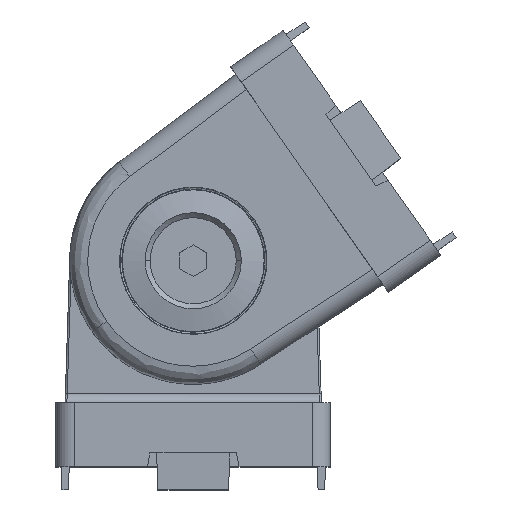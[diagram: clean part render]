
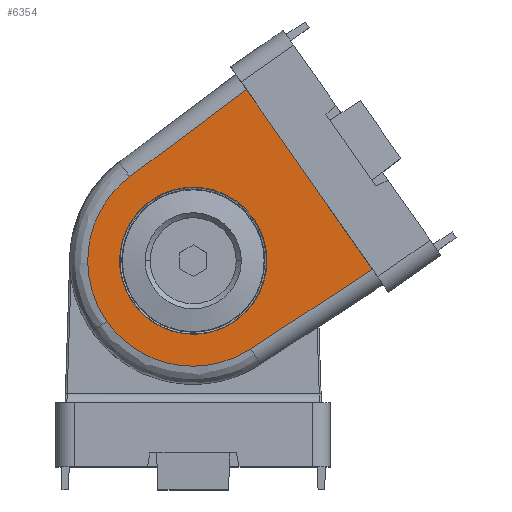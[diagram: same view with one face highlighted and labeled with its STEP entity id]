
A CAD part, top view. The second image highlights one B-rep face of the part: STEP entity #6354.
In plain terms, the highlighted planar face has unit normal (-0.014, -0.01, 1).
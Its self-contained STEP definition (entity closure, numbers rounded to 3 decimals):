
#420 = LINE ( 'NONE', #5363, #3326 ) ;
#425 = CARTESIAN_POINT ( 'NONE',  ( -6.584, -4.61, 13.589 ) ) ;
#689 = EDGE_CURVE ( 'NONE', #5242, #4052, #6558, .T. ) ;
#764 = B_SPLINE_CURVE_WITH_KNOTS ( 'NONE', 3,
 ( #14335, #3924, #13673, #10715, #8210, #966, #12652, #11817, #10641, #6235 ),
 .UNSPECIFIED., .F., .F.,
 ( 4, 2, 2, 2, 4 ),
 ( 0., 0.25, 0.5, 0.75, 1. ),
 .UNSPECIFIED. ) ;
#883 = CARTESIAN_POINT ( 'NONE',  ( 6.265, -9.645, 13.722 ) ) ;
#966 = CARTESIAN_POINT ( 'NONE',  ( -3.654, -11.033, 13.567 ) ) ;
#1043 = VECTOR ( 'NONE', #3093, 1000. ) ;
#1196 = PLANE ( 'NONE',  #2723 ) ;
#1363 = LINE ( 'NONE', #2882, #1043 ) ;
#2179 = ORIENTED_EDGE ( 'NONE', *, *, #3375, .F. ) ;
#2723 = AXIS2_PLACEMENT_3D ( 'NONE', #6613, #8942, #14154 ) ;
#2882 = CARTESIAN_POINT ( 'NONE',  ( 19.58, -0.939, 14. ) ) ;
#2958 = EDGE_CURVE ( 'NONE', #6661, #12600, #6961, .T. ) ;
#3049 = DIRECTION ( 'NONE',  ( 0.8, 0.599, 0.017 ) ) ;
#3093 = DIRECTION ( 'NONE',  ( -0.837, -0.547, -0.017 ) ) ;
#3291 =( BOUNDED_CURVE ( )  B_SPLINE_CURVE ( 3, ( #9708, #14181, #7196, #7797 ),
 .UNSPECIFIED., .F., .F. ) 
 B_SPLINE_CURVE_WITH_KNOTS ( ( 4, 4 ),
 ( 3.142, 6.283 ),
 .UNSPECIFIED. ) 
 CURVE ( )  GEOMETRIC_REPRESENTATION_ITEM ( )  RATIONAL_B_SPLINE_CURVE ( ( 1., 0.333, 0.333, 1. ) ) 
 REPRESENTATION_ITEM ( '' )  );
#3326 = VECTOR ( 'NONE', #12112, 1000. ) ;
#3375 = EDGE_CURVE ( 'NONE', #4781, #10605, #764, .T. ) ;
#3492 = CARTESIAN_POINT ( 'NONE',  ( -11.567, -1.161, 13.552 ) ) ;
#3671 = ORIENTED_EDGE ( 'NONE', *, *, #6763, .F. ) ;
#3924 = CARTESIAN_POINT ( 'NONE',  ( 5.03, -10.453, 13.697 ) ) ;
#4013 = FACE_OUTER_BOUND ( 'NONE', #10509, .T. ) ;
#4052 = VERTEX_POINT ( 'NONE', #5556 ) ;
#4164 = CARTESIAN_POINT ( 'NONE',  ( -6.921, 9.186, 13.722 ) ) ;
#4416 = CARTESIAN_POINT ( 'NONE',  ( 6.592, 4.616, 13.87 ) ) ;
#4781 = VERTEX_POINT ( 'NONE', #883 ) ;
#4888 = CARTESIAN_POINT ( 'NONE',  ( -11.151, 3.253, 13.603 ) ) ;
#5128 = ORIENTED_EDGE ( 'NONE', *, *, #6697, .F. ) ;
#5242 = VERTEX_POINT ( 'NONE', #4164 ) ;
#5363 = CARTESIAN_POINT ( 'NONE',  ( 4.093, 21.178, 14. ) ) ;
#5393 = ORIENTED_EDGE ( 'NONE', *, *, #10530, .F. ) ;
#5412 = ORIENTED_EDGE ( 'NONE', *, *, #2958, .F. ) ;
#5556 = CARTESIAN_POINT ( 'NONE',  ( 5.814, 18.72, 14. ) ) ;
#5781 = CARTESIAN_POINT ( 'NONE',  ( -9.449, -6.616, 13.528 ) ) ;
#5836 = ORIENTED_EDGE ( 'NONE', *, *, #12300, .T. ) ;
#6044 = CARTESIAN_POINT ( 'NONE',  ( -2.634, 17.793, 13.87 ) ) ;
#6235 = CARTESIAN_POINT ( 'NONE',  ( -9.449, -6.616, 13.528 ) ) ;
#6252 = CARTESIAN_POINT ( 'NONE',  ( -9.11, 7.188, 13.671 ) ) ;
#6354 = ADVANCED_FACE ( 'NONE', ( #8505, #4013 ), #1196, .F. ) ;
#6558 = LINE ( 'NONE', #6680, #11557 ) ;
#6613 = CARTESIAN_POINT ( 'NONE',  ( 4.093, 21.178, 14. ) ) ;
#6661 = VERTEX_POINT ( 'NONE', #4416 ) ;
#6680 = CARTESIAN_POINT ( 'NONE',  ( -6.889, 9.21, 13.723 ) ) ;
#6697 = EDGE_CURVE ( 'NONE', #13121, #4781, #1363, .T. ) ;
#6699 = CARTESIAN_POINT ( 'NONE',  ( -10.905, -4.036, 13.533 ) ) ;
#6761 = CARTESIAN_POINT ( 'NONE',  ( -6.921, 9.186, 13.722 ) ) ;
#6763 = EDGE_CURVE ( 'NONE', #12600, #6661, #3291, .T. ) ;
#6961 =( BOUNDED_CURVE ( )  B_SPLINE_CURVE ( 3, ( #7744, #6044, #13742, #425 ),
 .UNSPECIFIED., .F., .T. ) 
 B_SPLINE_CURVE_WITH_KNOTS ( ( 4, 4 ),
 ( 0., 3.142 ),
 .UNSPECIFIED. ) 
 CURVE ( )  GEOMETRIC_REPRESENTATION_ITEM ( )  RATIONAL_B_SPLINE_CURVE ( ( 1., 0.333, 0.333, 1. ) ) 
 REPRESENTATION_ITEM ( '' )  );
#7196 = CARTESIAN_POINT ( 'NONE',  ( 15.819, -8.561, 13.87 ) ) ;
#7744 = CARTESIAN_POINT ( 'NONE',  ( 6.592, 4.616, 13.87 ) ) ;
#7797 = CARTESIAN_POINT ( 'NONE',  ( 6.592, 4.616, 13.87 ) ) ;
#8210 = CARTESIAN_POINT ( 'NONE',  ( -0.757, -11.591, 13.603 ) ) ;
#8505 = FACE_BOUND ( 'NONE', #10206, .T. ) ;
#8942 = DIRECTION ( 'NONE',  ( 0.014, 0.01, -1. ) ) ;
#9443 = CARTESIAN_POINT ( 'NONE',  ( -10.635, 4.663, 13.624 ) ) ;
#9708 = CARTESIAN_POINT ( 'NONE',  ( -6.584, -4.61, 13.589 ) ) ;
#10206 = EDGE_LOOP ( 'NONE', ( #3671, #5412 ) ) ;
#10509 = EDGE_LOOP ( 'NONE', ( #2179, #5128, #5836, #12984, #5393 ) ) ;
#10530 = EDGE_CURVE ( 'NONE', #10605, #5242, #13864, .T. ) ;
#10605 = VERTEX_POINT ( 'NONE', #13334 ) ;
#10641 = CARTESIAN_POINT ( 'NONE',  ( -8.603, -7.824, 13.528 ) ) ;
#10715 = CARTESIAN_POINT ( 'NONE',  ( 0.745, -11.588, 13.624 ) ) ;
#11424 = CARTESIAN_POINT ( 'NONE',  ( -8.102, 8.302, 13.697 ) ) ;
#11511 = CARTESIAN_POINT ( 'NONE',  ( 19.58, -0.939, 14. ) ) ;
#11557 = VECTOR ( 'NONE', #3049, 1000. ) ;
#11817 = CARTESIAN_POINT ( 'NONE',  ( -7.522, -8.867, 13.533 ) ) ;
#12112 = DIRECTION ( 'NONE',  ( -0.574, 0.819, 0. ) ) ;
#12300 = EDGE_CURVE ( 'NONE', #13121, #4052, #420, .T. ) ;
#12451 = CARTESIAN_POINT ( 'NONE',  ( -10.295, -5.408, 13.528 ) ) ;
#12600 = VERTEX_POINT ( 'NONE', #12913 ) ;
#12652 = CARTESIAN_POINT ( 'NONE',  ( -5.047, -10.472, 13.552 ) ) ;
#12768 = CARTESIAN_POINT ( 'NONE',  ( -11.617, 0.34, 13.567 ) ) ;
#12913 = CARTESIAN_POINT ( 'NONE',  ( -6.584, -4.61, 13.589 ) ) ;
#12984 = ORIENTED_EDGE ( 'NONE', *, *, #689, .F. ) ;
#13121 = VERTEX_POINT ( 'NONE', #11511 ) ;
#13334 = CARTESIAN_POINT ( 'NONE',  ( -9.449, -6.616, 13.528 ) ) ;
#13673 = CARTESIAN_POINT ( 'NONE',  ( 3.639, -11.019, 13.671 ) ) ;
#13742 = CARTESIAN_POINT ( 'NONE',  ( -15.811, 8.566, 13.589 ) ) ;
#13864 = B_SPLINE_CURVE_WITH_KNOTS ( 'NONE', 3,
 ( #5781, #12451, #6699, #3492, #12768, #4888, #9443, #6252, #11424, #6761 ),
 .UNSPECIFIED., .F., .F.,
 ( 4, 2, 2, 2, 4 ),
 ( 0., 0.25, 0.5, 0.75, 1. ),
 .UNSPECIFIED. ) ;
#14154 = DIRECTION ( 'NONE',  ( 0.819, 0.573, 0.017 ) ) ;
#14181 = CARTESIAN_POINT ( 'NONE',  ( 2.642, -17.787, 13.589 ) ) ;
#14335 = CARTESIAN_POINT ( 'NONE',  ( 6.265, -9.645, 13.722 ) ) ;
